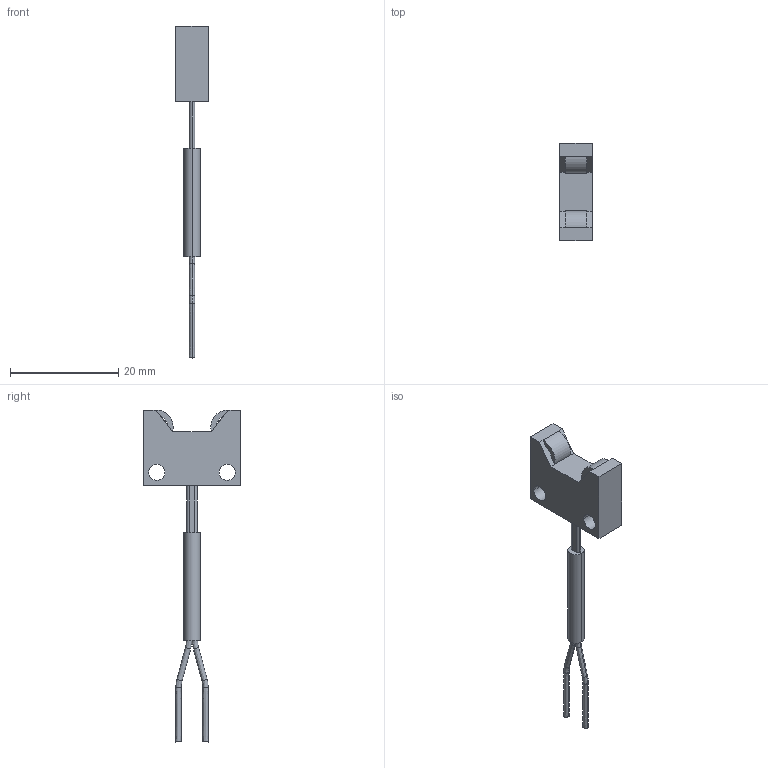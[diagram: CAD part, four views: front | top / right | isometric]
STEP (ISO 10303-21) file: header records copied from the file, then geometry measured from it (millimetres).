
FILE_DESCRIPTION (( 'STEP AP203' ), '1' );
FILE_NAME ('FD-L4.STEP', '2005-09-04T09:48:13', ( '川島良英' ), ( ' ' ), 'SwSTEP 2.0', 'SolidWorks 2004251', '' );
FILE_SCHEMA (( 'CONFIG_CONTROL_DESIGN' ));
Length unit declared in the file: millimetre
Products named in the file (1): FD-L4
Bounding box: 6 x 18 x 61.3 mm (x, y, z)
Volume: 1400.8 mm3; surface area: 1332.5 mm2
Topology: 1 solids, 1 shells, 50 faces, 124 edges, 76 vertices
Faces by surface type: plane 20, bspline 16, cylinder 14
Entity records: 1777 total; most frequent: CARTESIAN_POINT 527, ORIENTED_EDGE 248, DIRECTION 242, EDGE_CURVE 124, AXIS2_PLACEMENT_3D 87, VERTEX_POINT 76, VECTOR 68, LINE 68
